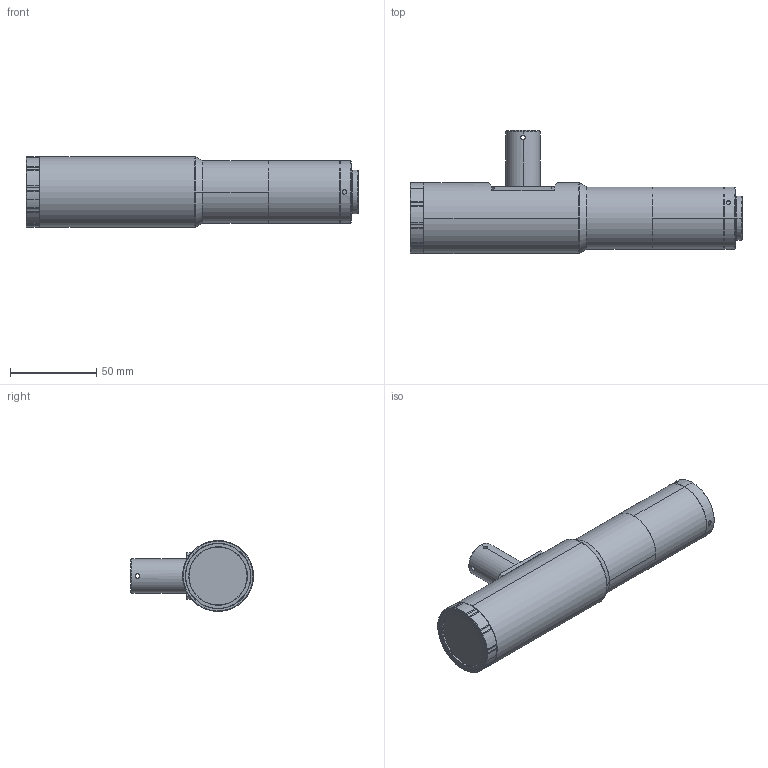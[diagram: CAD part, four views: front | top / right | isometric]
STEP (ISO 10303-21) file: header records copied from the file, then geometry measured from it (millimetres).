
FILE_DESCRIPTION (( 'STEP AP203' ), '1' );
FILE_NAME ('DTCA121-7.3C.STEP', '2023-12-21T03:07:12', ( '' ), ( '' ), 'SwSTEP 2.0', 'SolidWorks 2017', '' );
FILE_SCHEMA (( 'CONFIG_CONTROL_DESIGN' ));
Length unit declared in the file: millimetre
Products named in the file (1): DTCA121-7.3C
Bounding box: 192.22 x 71.2 x 41 mm (x, y, z)
Volume: 225411.3 mm3; surface area: 31454.4 mm2
Topology: 1 solids, 3 shells, 274 faces, 643 edges, 399 vertices
Faces by surface type: cylinder 134, cone 69, plane 67, torus 4
Entity records: 8878 total; most frequent: CARTESIAN_POINT 2635, ORIENTED_EDGE 1282, DIRECTION 1277, EDGE_CURVE 641, AXIS2_PLACEMENT_3D 517, VERTEX_POINT 399, EDGE_LOOP 308, ADVANCED_FACE 274
